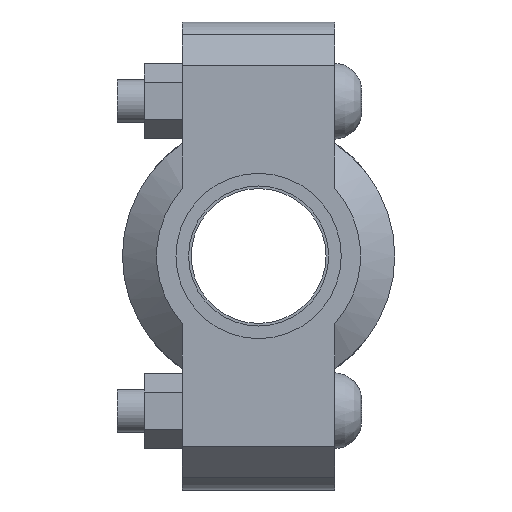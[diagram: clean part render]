
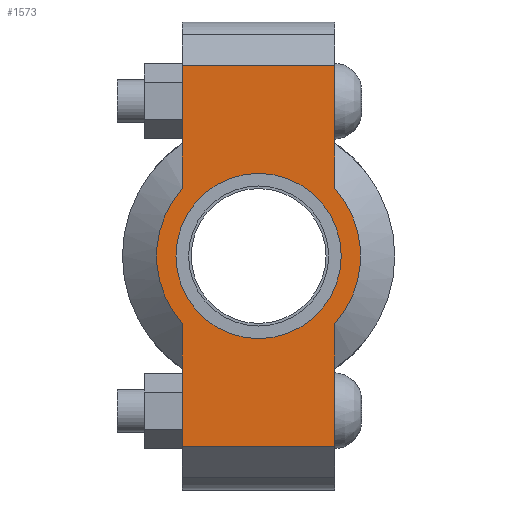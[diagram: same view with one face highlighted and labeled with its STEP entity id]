
A CAD part, left-side view. The second image highlights one B-rep face of the part: STEP entity #1573.
In plain terms, the highlighted planar face has unit normal (-1, 0, 0) as drawn and (0, 0, 1) by its records, which use the part's own axes.
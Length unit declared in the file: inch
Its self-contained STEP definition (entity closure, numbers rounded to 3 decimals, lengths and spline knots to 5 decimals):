
#128=LINE('',#2719,#225);
#143=LINE('',#2778,#240);
#151=LINE('',#2808,#248);
#153=LINE('',#2811,#250);
#154=LINE('',#2816,#251);
#155=LINE('',#2817,#252);
#225=VECTOR('',#2219,0.3937);
#240=VECTOR('',#2254,0.3937);
#248=VECTOR('',#2274,0.3937);
#250=VECTOR('',#2278,0.3937);
#251=VECTOR('',#2283,0.3937);
#252=VECTOR('',#2284,0.3937);
#316=FACE_BOUND('',#493,.T.);
#384=FACE_OUTER_BOUND('',#492,.T.);
#492=EDGE_LOOP('',(#1274,#1275,#1276,#1277,#1278,#1279,#1280,#1281));
#493=EDGE_LOOP('',(#1282));
#575=CIRCLE('',#1801,0.95);
#599=CIRCLE('',#1853,1.172);
#600=CIRCLE('',#1854,1.172);
#671=VERTEX_POINT('',#2545);
#712=VERTEX_POINT('',#2716);
#713=VERTEX_POINT('',#2718);
#734=VERTEX_POINT('',#2773);
#735=VERTEX_POINT('',#2777);
#744=VERTEX_POINT('',#2803);
#745=VERTEX_POINT('',#2807);
#746=VERTEX_POINT('',#2813);
#747=VERTEX_POINT('',#2815);
#835=EDGE_CURVE('',#671,#671,#575,.T.);
#892=EDGE_CURVE('',#713,#712,#128,.T.);
#917=EDGE_CURVE('',#735,#734,#143,.T.);
#930=EDGE_CURVE('',#745,#744,#151,.T.);
#932=EDGE_CURVE('',#745,#712,#153,.T.);
#933=EDGE_CURVE('',#744,#746,#599,.T.);
#934=EDGE_CURVE('',#746,#747,#154,.T.);
#935=EDGE_CURVE('',#735,#747,#155,.T.);
#936=EDGE_CURVE('',#734,#713,#600,.T.);
#1274=ORIENTED_EDGE('',*,*,#932,.F.);
#1275=ORIENTED_EDGE('',*,*,#930,.T.);
#1276=ORIENTED_EDGE('',*,*,#933,.T.);
#1277=ORIENTED_EDGE('',*,*,#934,.T.);
#1278=ORIENTED_EDGE('',*,*,#935,.F.);
#1279=ORIENTED_EDGE('',*,*,#917,.T.);
#1280=ORIENTED_EDGE('',*,*,#936,.T.);
#1281=ORIENTED_EDGE('',*,*,#892,.T.);
#1282=ORIENTED_EDGE('',*,*,#835,.T.);
#1413=PLANE('',#1852);
#1573=ADVANCED_FACE('',(#384,#316),#1413,.T.);
#1801=AXIS2_PLACEMENT_3D('',#2547,#2109,#2110);
#1852=AXIS2_PLACEMENT_3D('',#2812,#2279,#2280);
#1853=AXIS2_PLACEMENT_3D('',#2814,#2281,#2282);
#1854=AXIS2_PLACEMENT_3D('',#2818,#2285,#2286);
#2109=DIRECTION('center_axis',(0.,0.,-1.));
#2110=DIRECTION('ref_axis',(-1.,0.,0.));
#2219=DIRECTION('',(-1.,0.,0.));
#2254=DIRECTION('',(-1.,0.,0.));
#2274=DIRECTION('',(1.,0.,0.));
#2278=DIRECTION('',(0.,1.,0.));
#2279=DIRECTION('center_axis',(0.,0.,1.));
#2280=DIRECTION('ref_axis',(1.,0.,0.));
#2281=DIRECTION('center_axis',(0.,0.,1.));
#2282=DIRECTION('ref_axis',(-1.,0.,0.));
#2283=DIRECTION('',(1.,0.,0.));
#2284=DIRECTION('',(0.,-1.,0.));
#2285=DIRECTION('center_axis',(0.,0.,1.));
#2286=DIRECTION('ref_axis',(-1.,0.,0.));
#2545=CARTESIAN_POINT('',(0.95,0.,0.94));
#2547=CARTESIAN_POINT('Origin',(0.,0.,0.94));
#2716=CARTESIAN_POINT('',(-2.19,0.875,0.94));
#2718=CARTESIAN_POINT('',(-0.77972,0.875,0.94));
#2719=CARTESIAN_POINT('',(2.69,0.875,0.94));
#2773=CARTESIAN_POINT('',(0.77972,0.875,0.94));
#2777=CARTESIAN_POINT('',(2.19,0.875,0.94));
#2778=CARTESIAN_POINT('',(2.69,0.875,0.94));
#2803=CARTESIAN_POINT('',(-0.77972,-0.875,0.94));
#2807=CARTESIAN_POINT('',(-2.19,-0.875,0.94));
#2808=CARTESIAN_POINT('',(-2.69,-0.875,0.94));
#2811=CARTESIAN_POINT('',(-2.19,0.4375,0.94));
#2812=CARTESIAN_POINT('Origin',(0.,0.,0.94));
#2813=CARTESIAN_POINT('',(0.77972,-0.875,0.94));
#2814=CARTESIAN_POINT('Origin',(0.,0.,0.94));
#2815=CARTESIAN_POINT('',(2.19,-0.875,0.94));
#2816=CARTESIAN_POINT('',(-2.69,-0.875,0.94));
#2817=CARTESIAN_POINT('',(2.19,-0.4375,0.94));
#2818=CARTESIAN_POINT('Origin',(0.,0.,0.94));
